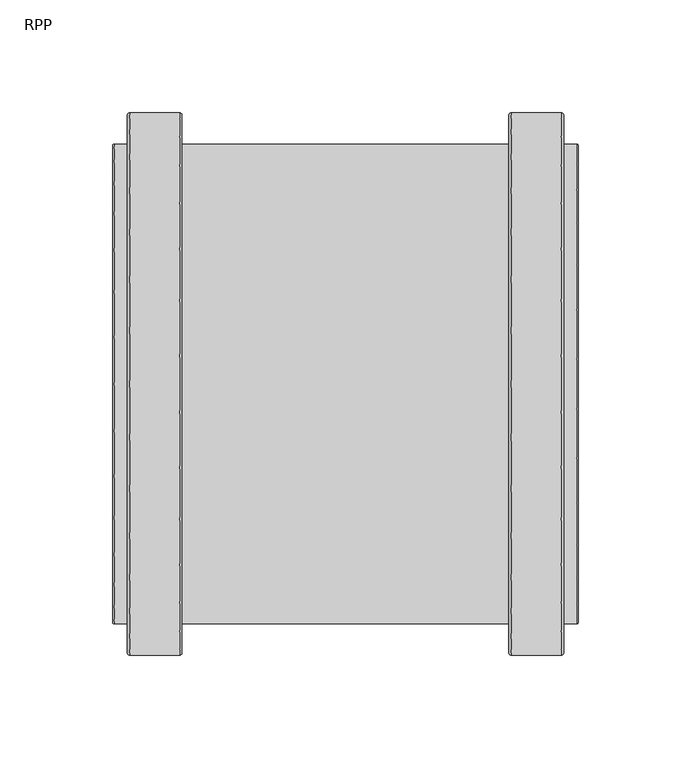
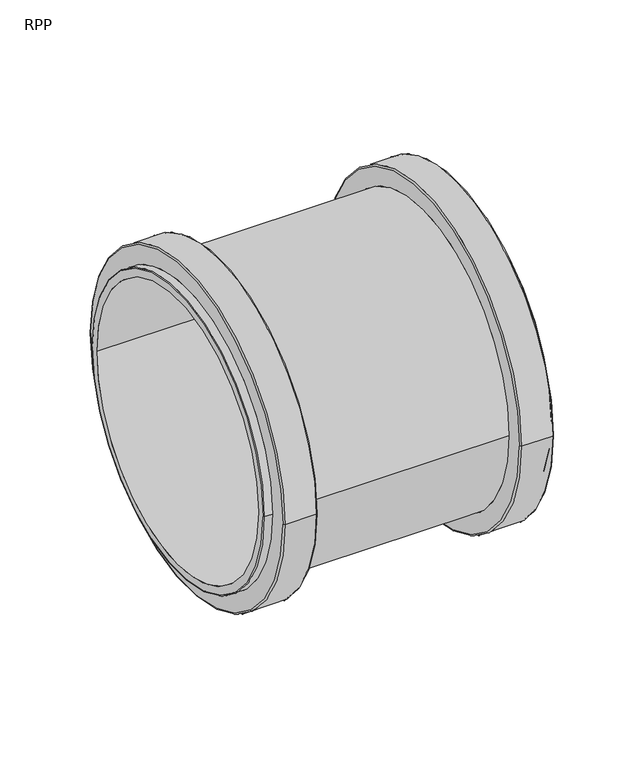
"""IFC4 building model written with IfcOpenShell, lengths in millimetres: pipe fitting geometry, RAUPIANO PLUS Double socket : RPP."""

from ifc_helpers import new_model, si_unit, point, frame, origin, place, context, project, spatial, polyline, circle_curve, ellipse_curve, trimmed, source, transform, mapped, element, save
from ifc_brep_helpers import plane_surface, cylinder_surface, revolved_surface, advanced_brep


def rpp_4f55f606(model_context):
    return source(origin(), model_context, "Body", "AdvancedBrep", [
        advanced_brep(
        [(-95.6, 120.05, 0.0), (-95.6, -120.05, 0.0), (-96.6, -119.05, 0.0), (-96.6, 119.05, 0.0), (-73.4, 120.05, 0.0), (-73.4, -120.05, 0.0), (-72.4, 119.05, 0.0), (-72.4, -119.05, 0.0), (72.4, 106.2, 0.0), (72.4, -106.2, 0.0), (-72.4, -106.2, 0.0), (-72.4, 106.2, 0.0), (73.4, 120.05, 0.0), (73.4, -120.05, 0.0), (72.4, -119.05, 0.0), (72.4, 119.05, 0.0), (95.6, 120.05, 0.0), (95.6, -120.05, 0.0), (96.6, 119.05, 0.0), (96.6, -119.05, 0.0), (102.5, 106.2, 0.0), (102.5, -106.2, 0.0), (96.6, -106.2, 0.0), (96.6, 106.2, 0.0), (103.0, 105.7, 0.0), (103.0, -105.7, 0.0), (3.0, 100.0, 0.0), (3.0, -100.0, 0.0), (103.0, -100.0, 0.0), (103.0, 100.0, 0.0), (-3.0, 97.69828, 0.0), (-3.0, -97.69828, 0.0), (3.0, -97.69828, 0.0), (3.0, 97.69828, 0.0), (-103.0, 100.0, 0.0), (-103.0, -100.0, 0.0), (-3.0, -100.0, 0.0), (-3.0, 100.0, 0.0), (-102.5, 106.2, 0.0), (-102.5, -106.2, 0.0), (-103.0, -105.7, 0.0), (-103.0, 105.7, 0.0), (-96.6, 106.2, 0.0), (-96.6, -106.2, 0.0)],
        [
            (0, 1, circle_curve(frame((-95.6, 0.0, 0.0), z_axis=(-1.0, 0.0, 0.0), x_axis=(0.0, -1.0, 0.0)), 120.05)),
            (1, 2, circle_curve(frame((-95.6, -119.05, 0.0), z_axis=(0.0, 0.0, -1.0), x_axis=(1.0, 0.0, 0.0)), 1.0)),
            (2, 3, circle_curve(frame((-96.6, 0.0, 0.0), z_axis=(1.0, 0.0, 0.0), x_axis=(0.0, -1.0, 0.0)), 119.05)),
            (3, 0, circle_curve(frame((-95.6, 119.05, 0.0), z_axis=(0.0, 0.0, -1.0), x_axis=(1.0, 0.0, 0.0)), 1.0)),
            (4, 5, circle_curve(frame((-73.4, 0.0, 0.0), z_axis=(-1.0, 0.0, 0.0), x_axis=(0.0, -1.0, 0.0)), 120.05)),
            (5, 1),
            (0, 4),
            (6, 7, circle_curve(frame((-72.4, 0.0, 0.0), z_axis=(-1.0, 0.0, 0.0), x_axis=(0.0, -1.0, 0.0)), 119.05)),
            (7, 5, circle_curve(frame((-73.4, -119.05, 0.0), z_axis=(0.0, 0.0, -1.0), x_axis=(1.0, 0.0, 0.0)), 1.0)),
            (4, 6, circle_curve(frame((-73.4, 119.05, 0.0), z_axis=(0.0, 0.0, -1.0), x_axis=(1.0, 0.0, 0.0)), 1.0)),
            (8, 9, circle_curve(frame((72.4, 0.0, 0.0), z_axis=(-1.0, 0.0, 0.0), x_axis=(0.0, -1.0, 0.0)), 106.2)),
            (9, 10),
            (10, 11, circle_curve(frame((-72.4, 0.0, 0.0), z_axis=(1.0, 0.0, 0.0), x_axis=(0.0, -1.0, 0.0)), 106.2)),
            (11, 8),
            (12, 13, circle_curve(frame((73.4, 0.0, 0.0), z_axis=(-1.0, 0.0, 0.0), x_axis=(0.0, -1.0, 0.0)), 120.05)),
            (13, 14, circle_curve(frame((73.4, -119.05, 0.0), z_axis=(0.0, 0.0, -1.0), x_axis=(1.0, 0.0, 0.0)), 1.0)),
            (14, 15, circle_curve(frame((72.4, 0.0, 0.0), z_axis=(1.0, 0.0, 0.0), x_axis=(0.0, -1.0, 0.0)), 119.05)),
            (15, 12, circle_curve(frame((73.4, 119.05, 0.0), z_axis=(0.0, 0.0, -1.0), x_axis=(1.0, 0.0, 0.0)), 1.0)),
            (16, 17, circle_curve(frame((95.6, 0.0, 0.0), z_axis=(-1.0, 0.0, 0.0), x_axis=(0.0, -1.0, 0.0)), 120.05)),
            (17, 13),
            (12, 16),
            (18, 19, circle_curve(frame((96.6, 0.0, 0.0), z_axis=(-1.0, 0.0, 0.0), x_axis=(0.0, -1.0, 0.0)), 119.05)),
            (19, 17, circle_curve(frame((95.6, -119.05, 0.0), z_axis=(0.0, 0.0, -1.0), x_axis=(1.0, 0.0, 0.0)), 1.0)),
            (16, 18, circle_curve(frame((95.6, 119.05, 0.0), z_axis=(0.0, 0.0, -1.0), x_axis=(1.0, 0.0, 0.0)), 1.0)),
            (20, 21, circle_curve(frame((102.5, 0.0, 0.0), z_axis=(-1.0, 0.0, 0.0), x_axis=(0.0, -1.0, 0.0)), 106.2)),
            (21, 22),
            (22, 23, circle_curve(frame((96.6, 0.0, 0.0), z_axis=(1.0, 0.0, 0.0), x_axis=(0.0, -1.0, 0.0)), 106.2)),
            (23, 20),
            (24, 25, circle_curve(frame((103.0, 0.0, 0.0), z_axis=(-1.0, 0.0, 0.0), x_axis=(0.0, -1.0, 0.0)), 105.7)),
            (25, 21, circle_curve(frame((102.5, -105.7, 0.0), z_axis=(0.0, 0.0, -1.0), x_axis=(1.0, 0.0, 0.0)), 0.5)),
            (20, 24, circle_curve(frame((102.5, 105.7, 0.0), z_axis=(0.0, 0.0, -1.0), x_axis=(1.0, 0.0, 0.0)), 0.5)),
            (26, 27, circle_curve(frame((3.0, 0.0, 0.0), z_axis=(-1.0, 0.0, 0.0), x_axis=(0.0, -1.0, 0.0)), 100.0)),
            (27, 28),
            (28, 29, circle_curve(frame((103.0, 0.0, 0.0), z_axis=(1.0, 0.0, 0.0), x_axis=(0.0, -1.0, 0.0)), 100.0)),
            (29, 26),
            (30, 31, circle_curve(frame((-3.0, 0.0, 0.0), z_axis=(-1.0, 0.0, 0.0), x_axis=(0.0, -1.0, 0.0)), 97.69828)),
            (31, 32),
            (32, 33, circle_curve(frame((3.0, 0.0, 0.0), z_axis=(1.0, 0.0, 0.0), x_axis=(0.0, -1.0, 0.0)), 97.69828)),
            (33, 30),
            (34, 35, circle_curve(frame((-103.0, 0.0, 0.0), z_axis=(-1.0, 0.0, 0.0), x_axis=(0.0, -1.0, 0.0)), 100.0)),
            (35, 36),
            (36, 37, circle_curve(frame((-3.0, 0.0, 0.0), z_axis=(1.0, 0.0, 0.0), x_axis=(0.0, -1.0, 0.0)), 100.0)),
            (37, 34),
            (38, 39, circle_curve(frame((-102.5, 0.0, 0.0), z_axis=(-1.0, 0.0, 0.0), x_axis=(0.0, -1.0, 0.0)), 106.2)),
            (39, 40, circle_curve(frame((-102.5, -105.7, 0.0), z_axis=(0.0, 0.0, -1.0), x_axis=(1.0, 0.0, 0.0)), 0.5)),
            (40, 41, circle_curve(frame((-103.0, 0.0, 0.0), z_axis=(1.0, 0.0, 0.0), x_axis=(0.0, -1.0, 0.0)), 105.7)),
            (41, 38, circle_curve(frame((-102.5, 105.7, 0.0), z_axis=(0.0, 0.0, -1.0), x_axis=(1.0, 0.0, 0.0)), 0.5)),
            (42, 43, circle_curve(frame((-96.6, 0.0, 0.0), z_axis=(-1.0, 0.0, 0.0), x_axis=(0.0, -1.0, 0.0)), 106.2)),
            (43, 39),
            (38, 42),
            (2, 3, circle_curve(frame((-96.6, 0.0, 0.0), z_axis=(-1.0, 0.0, 0.0), x_axis=(0.0, 1.0, 0.0)), 119.05)),
            (42, 43, circle_curve(frame((-96.6, 0.0, 0.0), z_axis=(1.0, 0.0, 0.0), x_axis=(0.0, 1.0, 0.0)), 106.2)),
            (1, 0, circle_curve(frame((-95.6, 0.0, 0.0), z_axis=(-1.0, 0.0, 0.0), x_axis=(0.0, 1.0, 0.0)), 120.05)),
            (5, 4, circle_curve(frame((-73.4, 0.0, 0.0), z_axis=(-1.0, 0.0, 0.0), x_axis=(0.0, 1.0, 0.0)), 120.05)),
            (7, 6, circle_curve(frame((-72.4, 0.0, 0.0), z_axis=(-1.0, 0.0, 0.0), x_axis=(0.0, 1.0, 0.0)), 119.05)),
            (10, 11, circle_curve(frame((-72.4, 0.0, 0.0), z_axis=(-1.0, 0.0, 0.0), x_axis=(0.0, 1.0, 0.0)), 106.2)),
            (9, 8, circle_curve(frame((72.4, 0.0, 0.0), z_axis=(-1.0, 0.0, 0.0), x_axis=(0.0, 1.0, 0.0)), 106.2)),
            (14, 15, circle_curve(frame((72.4, 0.0, 0.0), z_axis=(-1.0, 0.0, 0.0), x_axis=(0.0, 1.0, 0.0)), 119.05)),
            (13, 12, circle_curve(frame((73.4, 0.0, 0.0), z_axis=(-1.0, 0.0, 0.0), x_axis=(0.0, 1.0, 0.0)), 120.05)),
            (17, 16, circle_curve(frame((95.6, 0.0, 0.0), z_axis=(-1.0, 0.0, 0.0), x_axis=(0.0, 1.0, 0.0)), 120.05)),
            (19, 18, circle_curve(frame((96.6, 0.0, 0.0), z_axis=(-1.0, 0.0, 0.0), x_axis=(0.0, 1.0, 0.0)), 119.05)),
            (22, 23, circle_curve(frame((96.6, 0.0, 0.0), z_axis=(-1.0, 0.0, 0.0), x_axis=(0.0, 1.0, 0.0)), 106.2)),
            (21, 20, circle_curve(frame((102.5, 0.0, 0.0), z_axis=(-1.0, 0.0, 0.0), x_axis=(0.0, 1.0, 0.0)), 106.2)),
            (25, 24, circle_curve(frame((103.0, 0.0, 0.0), z_axis=(-1.0, 0.0, 0.0), x_axis=(0.0, 1.0, 0.0)), 105.7)),
            (28, 29, circle_curve(frame((103.0, 0.0, 0.0), z_axis=(-1.0, 0.0, 0.0), x_axis=(0.0, 1.0, 0.0)), 100.0)),
            (27, 26, circle_curve(frame((3.0, 0.0, 0.0), z_axis=(-1.0, 0.0, 0.0), x_axis=(0.0, 1.0, 0.0)), 100.0)),
            (32, 33, circle_curve(frame((3.0, 0.0, 0.0), z_axis=(-1.0, 0.0, 0.0), x_axis=(0.0, 1.0, 0.0)), 97.69828)),
            (31, 30, circle_curve(frame((-3.0, 0.0, 0.0), z_axis=(-1.0, 0.0, 0.0), x_axis=(0.0, 1.0, 0.0)), 97.69828)),
            (36, 37, circle_curve(frame((-3.0, 0.0, 0.0), z_axis=(-1.0, 0.0, 0.0), x_axis=(0.0, 1.0, 0.0)), 100.0)),
            (35, 34, circle_curve(frame((-103.0, 0.0, 0.0), z_axis=(-1.0, 0.0, 0.0), x_axis=(0.0, 1.0, 0.0)), 100.0)),
            (40, 41, circle_curve(frame((-103.0, 0.0, 0.0), z_axis=(-1.0, 0.0, 0.0), x_axis=(0.0, 1.0, 0.0)), 105.7)),
            (39, 38, circle_curve(frame((-102.5, 0.0, 0.0), z_axis=(-1.0, 0.0, 0.0), x_axis=(0.0, 1.0, 0.0)), 106.2)),
        ],
        [
            revolved_surface(trimmed(ellipse_curve(frame((-95.6, -119.05, 0.0), z_axis=(0.0, 0.0, 1.0), x_axis=(1.0, 0.0, 0.0)), 1.0, 1.0), [point((-96.6, -119.05, 0.0))], [point((-95.6, -120.05, 0.0))], True, "CARTESIAN"), (0.0, 0.0, 0.0), (1.0, 0.0, 0.0)),
            cylinder_surface(frame((0.0, 0.0, 0.0), z_axis=(1.0, 0.0, 0.0), x_axis=(0.0, -1.0, 0.0)), 120.05),
            revolved_surface(trimmed(ellipse_curve(frame((-73.4, -119.05, 0.0), z_axis=(0.0, 0.0, 1.0), x_axis=(1.0, 0.0, 0.0)), 1.0, 1.0), [point((-73.4, -120.05, 0.0))], [point((-72.4, -119.05, 0.0))], True, "CARTESIAN"), (0.0, 0.0, 0.0), (1.0, 0.0, 0.0)),
            cylinder_surface(frame((0.0, 0.0, 0.0), z_axis=(1.0, 0.0, 0.0), x_axis=(0.0, -1.0, 0.0)), 106.2),
            revolved_surface(trimmed(ellipse_curve(frame((73.4, -119.05, 0.0), z_axis=(0.0, 0.0, 1.0), x_axis=(1.0, 0.0, 0.0)), 1.0, 1.0), [point((72.4, -119.05, 0.0))], [point((73.4, -120.05, 0.0))], True, "CARTESIAN"), (0.0, 0.0, 0.0), (1.0, 0.0, 0.0)),
            revolved_surface(trimmed(ellipse_curve(frame((95.6, -119.05, 0.0), z_axis=(0.0, 0.0, 1.0), x_axis=(1.0, 0.0, 0.0)), 1.0, 1.0), [point((95.6, -120.05, 0.0))], [point((96.6, -119.05, 0.0))], True, "CARTESIAN"), (0.0, 0.0, 0.0), (1.0, 0.0, 0.0)),
            revolved_surface(trimmed(ellipse_curve(frame((102.5, -105.7, 0.0), z_axis=(0.0, 0.0, 1.0), x_axis=(1.0, 0.0, 0.0)), 0.5, 0.5), [point((102.5, -106.2, 0.0))], [point((103.0, -105.7, 0.0))], True, "CARTESIAN"), (0.0, 0.0, 0.0), (1.0, 0.0, 0.0)),
            revolved_surface(polyline([(103.0, -100.0, 0.0), (3.0, -100.0, 0.0)]), (0.0, 0.0, 0.0), (1.0, 0.0, 0.0)),
            revolved_surface(polyline([(3.0, -97.69828, 0.0), (-3.0, -97.69828, 0.0)]), (0.0, 0.0, 0.0), (1.0, 0.0, 0.0)),
            revolved_surface(polyline([(-3.0, -100.0, 0.0), (-103.0, -100.0, 0.0)]), (0.0, 0.0, 0.0), (1.0, 0.0, 0.0)),
            revolved_surface(trimmed(ellipse_curve(frame((-102.5, -105.7, 0.0), z_axis=(0.0, 0.0, 1.0), x_axis=(1.0, 0.0, 0.0)), 0.5, 0.5), [point((-103.0, -105.7, 0.0))], [point((-102.5, -106.2, 0.0))], True, "CARTESIAN"), (0.0, 0.0, 0.0), (1.0, 0.0, 0.0)),
            plane_surface(frame((-96.6, 0.0, 0.0), z_axis=(-1.0, 0.0, 0.0), x_axis=(0.0, 1.0, 0.0))),
            revolved_surface(trimmed(ellipse_curve(frame((-95.6, 119.05, 0.0), z_axis=(0.0, 0.0, -1.0), x_axis=(1.0, 0.0, 0.0)), 1.0, 1.0), [point((-96.6, 119.05, 0.0))], [point((-95.6, 120.05, 0.0))], True, "CARTESIAN"), (0.0, 0.0, 0.0), (1.0, 0.0, 0.0)),
            cylinder_surface(frame((0.0, 0.0, 0.0), z_axis=(1.0, 0.0, 0.0), x_axis=(0.0, 1.0, 0.0)), 120.05),
            revolved_surface(trimmed(ellipse_curve(frame((-73.4, 119.05, 0.0), z_axis=(0.0, 0.0, -1.0), x_axis=(1.0, 0.0, 0.0)), 1.0, 1.0), [point((-73.4, 120.05, 0.0))], [point((-72.4, 119.05, 0.0))], True, "CARTESIAN"), (0.0, 0.0, 0.0), (1.0, 0.0, 0.0)),
            plane_surface(frame((-72.4, 0.0, 0.0), z_axis=(1.0, 0.0, 0.0), x_axis=(0.0, 1.0, 0.0))),
            cylinder_surface(frame((0.0, 0.0, 0.0), z_axis=(1.0, 0.0, 0.0), x_axis=(0.0, 1.0, 0.0)), 106.2),
            plane_surface(frame((72.4, 0.0, 0.0), z_axis=(-1.0, 0.0, 0.0), x_axis=(0.0, 1.0, 0.0))),
            revolved_surface(trimmed(ellipse_curve(frame((73.4, 119.05, 0.0), z_axis=(0.0, 0.0, -1.0), x_axis=(1.0, 0.0, 0.0)), 1.0, 1.0), [point((72.4, 119.05, 0.0))], [point((73.4, 120.05, 0.0))], True, "CARTESIAN"), (0.0, 0.0, 0.0), (1.0, 0.0, 0.0)),
            revolved_surface(trimmed(ellipse_curve(frame((95.6, 119.05, 0.0), z_axis=(0.0, 0.0, -1.0), x_axis=(1.0, 0.0, 0.0)), 1.0, 1.0), [point((95.6, 120.05, 0.0))], [point((96.6, 119.05, 0.0))], True, "CARTESIAN"), (0.0, 0.0, 0.0), (1.0, 0.0, 0.0)),
            plane_surface(frame((96.6, 0.0, 0.0), z_axis=(1.0, 0.0, 0.0), x_axis=(0.0, 1.0, 0.0))),
            revolved_surface(trimmed(ellipse_curve(frame((102.5, 105.7, 0.0), z_axis=(0.0, 0.0, -1.0), x_axis=(1.0, 0.0, 0.0)), 0.5, 0.5), [point((102.5, 106.2, 0.0))], [point((103.0, 105.7, 0.0))], True, "CARTESIAN"), (0.0, 0.0, 0.0), (1.0, 0.0, 0.0)),
            plane_surface(frame((103.0, 0.0, 0.0), z_axis=(1.0, 0.0, 0.0), x_axis=(0.0, 1.0, 0.0))),
            revolved_surface(polyline([(103.0, 100.0, 0.0), (3.0, 100.0, 0.0)]), (0.0, 0.0, 0.0), (1.0, 0.0, 0.0)),
            plane_surface(frame((3.0, 0.0, 0.0), z_axis=(1.0, 0.0, 0.0), x_axis=(0.0, 1.0, 0.0))),
            revolved_surface(polyline([(3.0, 97.69828, 0.0), (-3.0, 97.69828, 0.0)]), (0.0, 0.0, 0.0), (1.0, 0.0, 0.0)),
            plane_surface(frame((-3.0, 0.0, 0.0), z_axis=(-1.0, 0.0, 0.0), x_axis=(0.0, 1.0, 0.0))),
            revolved_surface(polyline([(-3.0, 100.0, 0.0), (-103.0, 100.0, 0.0)]), (0.0, 0.0, 0.0), (1.0, 0.0, 0.0)),
            plane_surface(frame((-103.0, 0.0, 0.0), z_axis=(-1.0, 0.0, 0.0), x_axis=(0.0, 1.0, 0.0))),
            revolved_surface(trimmed(ellipse_curve(frame((-102.5, 105.7, 0.0), z_axis=(0.0, 0.0, -1.0), x_axis=(1.0, 0.0, 0.0)), 0.5, 0.5), [point((-103.0, 105.7, 0.0))], [point((-102.5, 106.2, 0.0))], True, "CARTESIAN"), (0.0, 0.0, 0.0), (1.0, 0.0, 0.0)),
        ],
        [
            (0, [[1, 2, 3, 4]]),
            (1, [[5, 6, -1, 7]]),
            (2, [[8, 9, -5, 10]]),
            (3, [[11, 12, 13, 14]]),
            (4, [[15, 16, 17, 18]]),
            (1, [[19, 20, -15, 21]]),
            (5, [[22, 23, -19, 24]]),
            (3, [[25, 26, 27, 28]]),
            (6, [[29, 30, -25, 31]]),
            (7, [[32, 33, 34, 35]]),
            (8, [[36, 37, 38, 39]]),
            (9, [[40, 41, 42, 43]]),
            (10, [[44, 45, 46, 47]]),
            (3, [[48, 49, -44, 50]]),
            (11, [[51, -3], [52, -48]]),
            (12, [[53, -4, -51, -2]]),
            (13, [[54, -7, -53, -6]]),
            (14, [[55, -10, -54, -9]]),
            (15, [[-55, -8], [56, -13]]),
            (16, [[57, -14, -56, -12]]),
            (17, [[58, -17], [-57, -11]]),
            (18, [[59, -18, -58, -16]]),
            (13, [[60, -21, -59, -20]]),
            (19, [[61, -24, -60, -23]]),
            (20, [[-61, -22], [62, -27]]),
            (16, [[63, -28, -62, -26]]),
            (21, [[64, -31, -63, -30]]),
            (22, [[-64, -29], [65, -34]]),
            (23, [[66, -35, -65, -33]]),
            (24, [[-66, -32], [67, -38]]),
            (25, [[68, -39, -67, -37]]),
            (26, [[69, -42], [-68, -36]]),
            (27, [[70, -43, -69, -41]]),
            (28, [[71, -46], [-70, -40]]),
            (29, [[72, -47, -71, -45]]),
            (16, [[-52, -50, -72, -49]]),
        ],
    ),
    ])


if __name__ == "__main__":
    model = new_model("IFC4")
    model_context = context("Model", 3, world=origin())
    ifc_project = project(units=[si_unit("LENGTHUNIT", "METRE", prefix="MILLI")], contexts=[model_context])
    site = spatial("IfcSite", under=ifc_project)
    building = spatial("IfcBuilding", under=site)
    placement = place(None, origin())
    rpp_shape = rpp_4f55f606(model_context)
    element("IfcPipeFitting", 1, ObjectType="RAUPIANO PLUS Double socket : RPP", at=placement, inside=building, context=model_context, shape_type="MappedRepresentation", body=[
        mapped(rpp_shape, transform((0.0, 0.0, 0.0), x_axis=(1.0, 0.0, 0.0), y_axis=(0.0, 1.0, 0.0), z_axis=(0.0, 0.0, 1.0))),
    ])
    save(model, "model.ifc")
